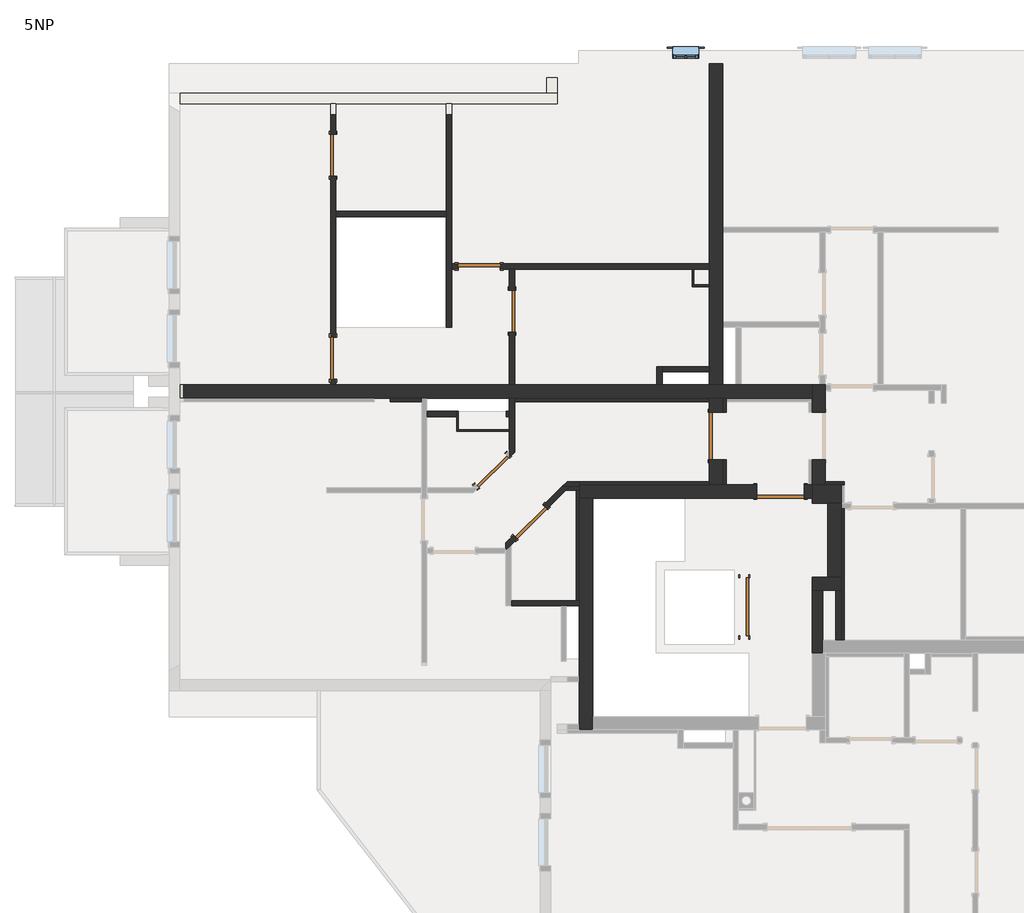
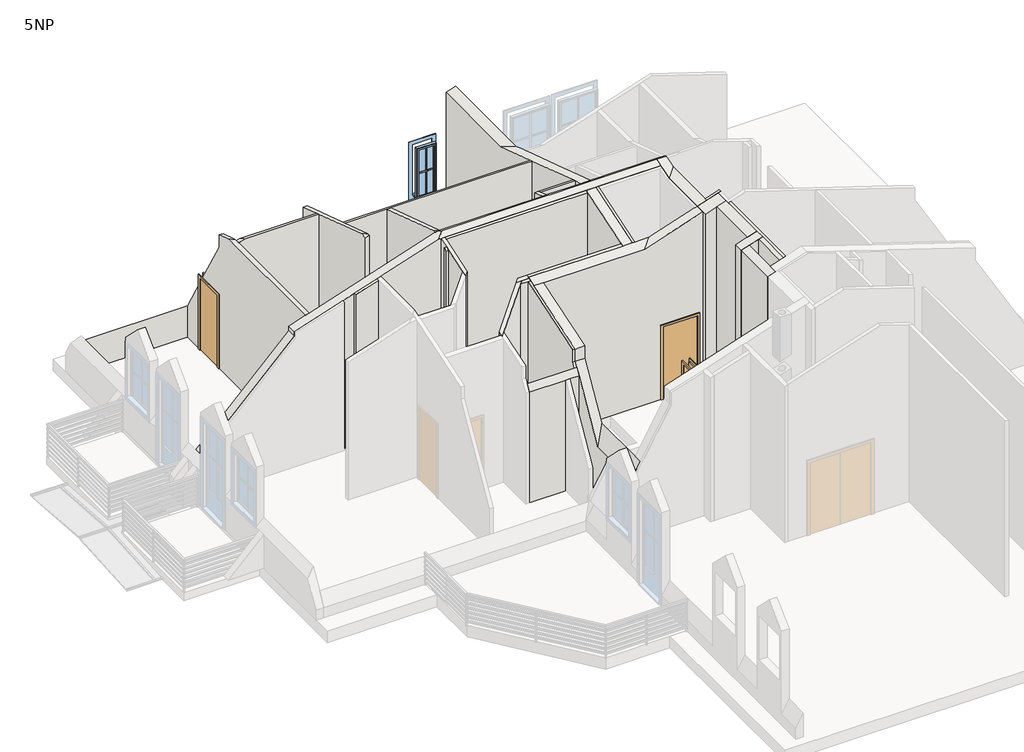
# One storey, part 3 of 4: 38 walls, 9 doors, 1 window.
"""IFC4 building model written with IfcOpenShell, lengths in millimetres."""

from ifc_helpers import new_model, si_unit, frame, origin, place, context, project, spatial, polyline, outline, extrude, faceted_brep, transform, mapped, element, save
from components import sd_1100x2000_1d62120a, sd_800x2000_6a16926d, sd_800x2000_80f4ff25, sd_900x2000_a6683946, sd_900x2000_4224ae2a, standard_window_with_mullions_cf772253

model = new_model("IFC4")

# Units and contexts
model_context = context("Model", 3, world=origin())
ifc_project = project(units=[si_unit("LENGTHUNIT", "METRE", prefix="MILLI")], contexts=[model_context])

# Site, building, storey
site = spatial("IfcSite", under=ifc_project)
building = spatial("IfcBuilding", under=site)
storey = spatial("IfcBuildingStorey", under=building, Name="5NP", Elevation=11800.0)

# Doors
placement = place(None, origin())
sd_1100x2000_shape = sd_1100x2000_1d62120a(model_context)
element("IfcDoor", 1, ObjectType="JednokridlePlne : SD 1100x2000", at=placement, inside=storey, context=model_context, shape_type="MappedRepresentation", body=[
    mapped(sd_1100x2000_shape, transform((277.8037835, 250.1290541, 11800.0), x_axis=(0.0, -1.0, 0.0), y_axis=(1.0, 0.0, 0.0), z_axis=(0.0, 0.0, 1.0))),
])
sd_800x2000_shape = sd_800x2000_6a16926d(model_context)
element("IfcDoor", 2, ObjectType="JednokridlePlne : SD 800x2000", at=placement, inside=storey, context=model_context, shape_type="MappedRepresentation", body=[
    mapped(sd_800x2000_shape, transform((-4517.2943935, 2840.0499619, 11800.0), x_axis=(0.712655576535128, 0.7015140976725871, 0.0), y_axis=(-0.7015140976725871, 0.712655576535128, 0.0), z_axis=(0.0, 0.0, 1.0))),
])
element("IfcDoor", 3, ObjectType="JednokridlePlne : SD 800x2000", at=placement, inside=storey, context=model_context, shape_type="MappedRepresentation", body=[
    mapped(sd_800x2000_shape, transform((-4137.1962165, 5871.7254016, 11800.0), x_axis=(0.0, 0.9999999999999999, 0.0), y_axis=(-0.9999999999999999, 0.0, 0.0), z_axis=(0.0, 0.0, 1.0))),
])
element("IfcDoor", 4, ObjectType="JednokridlePlne : SD 800x2000", at=placement, inside=storey, context=model_context, shape_type="MappedRepresentation", body=[
    mapped(sd_800x2000_shape, transform((-7537.1962165, 8831.4295669, 11800.0), x_axis=(0.0, -1.0, 0.0), y_axis=(1.0, 0.0, 0.0), z_axis=(0.0, 0.0, 1.0))),
])
sd_800x2000_2_shape = sd_800x2000_80f4ff25(model_context)
element("IfcDoor", 5, ObjectType="JednokridlePlne : SD 800x2000", at=placement, inside=storey, context=model_context, shape_type="MappedRepresentation", body=[
    mapped(sd_800x2000_2_shape, transform((-3790.7010875, 1863.413505, 11800.0), x_axis=(-0.7071067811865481, -0.7071067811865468, 0.0), y_axis=(0.7071067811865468, -0.7071067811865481, 0.0), z_axis=(0.0, 0.0, 1.0))),
])
element("IfcDoor", 6, ObjectType="JednokridlePlne : SD 800x2000", at=placement, inside=storey, context=model_context, shape_type="MappedRepresentation", body=[
    mapped(sd_800x2000_2_shape, transform((-7537.1962165, 4978.4889536, 11800.0), x_axis=(0.0, 1.0, 0.0), y_axis=(-1.0, 0.0, 0.0), z_axis=(0.0, 0.0, 1.0))),
])
element("IfcDoor", 7, ObjectType="JednokridlePlne : SD 800x2000", at=placement, inside=storey, context=model_context, shape_type="MappedRepresentation", body=[
    mapped(sd_800x2000_2_shape, transform((-4763.3256924, 6717.6290541, 11800.0), x_axis=(1.0, 0.0, 0.0), y_axis=(0.0, 1.0, 0.0), z_axis=(0.0, 0.0, 1.0))),
])
sd_900x2000_shape = sd_900x2000_a6683946(model_context)
element("IfcDoor", 8, ObjectType="JednokridlePlne : SD 900x2000", at=placement, inside=storey, context=model_context, shape_type="MappedRepresentation", body=[
    mapped(sd_900x2000_shape, transform((-262.1962165, 3497.5977832, 11800.0), x_axis=(0.0, -1.0, 0.0), y_axis=(1.0, 0.0, 0.0), z_axis=(0.0, 0.0, 1.0))),
])
sd_900x2000_2_shape = sd_900x2000_4224ae2a(model_context)
element("IfcDoor", 9, ObjectType="JednokridlePlne : SD 900x2000", at=placement, inside=storey, context=model_context, shape_type="MappedRepresentation", body=[
    mapped(sd_900x2000_2_shape, transform((965.3697901, 2442.6290541, 11800.0), x_axis=(-1.0, 0.0, 0.0), y_axis=(0.0, -1.0, 0.0), z_axis=(0.0, 0.0, 1.0))),
])

# Walls
element("IfcWall", 10, ObjectType="Exterior - 150+50mm", at=placement, inside=storey, context=model_context, shape_type="Brep", body=[
    faceted_brep([(-10456.4352243, 9807.6290541, 11800.0), (-7587.1962165, 9807.6290541, 11800.0), (-7487.1962165, 9807.6290541, 11800.0), (-5387.1962165, 9807.6290541, 11800.0), (-5287.1962165, 9807.6290541, 11800.0), (-3277.1962165, 9807.6290541, 11800.0), (-3277.1962165, 9807.6290541, 12667.9110615), (-5287.1962165, 9807.6290541, 12667.9110615), (-5387.1962165, 9807.6290541, 12667.9110615), (-7487.1962165, 9807.6290541, 12667.9110615), (-7587.1962165, 9807.6290541, 12667.9110615), (-10456.4352243, 9807.6290541, 12667.9110615), (-10456.4352243, 10007.6290541, 11800.0), (-10456.4352243, 10007.6290541, 12321.5009), (-3477.1962165, 10007.6290541, 12321.5009), (-3277.1962165, 10007.6290541, 12321.5009), (-3277.1962165, 10007.6290541, 11800.0), (-3477.1962165, 10007.6290541, 11800.0)], [[[0, 1, 2, 3, 4, 5, 6, 7, 8, 9, 10, 11]], [[12, 13, 14, 15, 16, 17]], [[5, 4, 3, 2, 1, 0, 12, 17, 16]], [[6, 5, 16, 15]], [[0, 11, 13, 12]], [[11, 10, 9, 8, 7, 6, 15, 14, 13]]]),
])
element("IfcWall", 11, ObjectType="Exterior - 150+50mm", at=placement, inside=storey, context=model_context, shape_type="SweptSolid", body=[
    extrude(outline(polyline([(10007.6290541, 11800.0), (10007.6290541, 12321.5009), (10308.7177391, 11800.0), (10007.6290541, 11800.0)])), frame((-3477.1962165, 0.0, 0.0), z_axis=(1.0, 0.0, 0.0), x_axis=(0.0, 1.0, 0.0)), (0.0, 0.0, 1.0), 200.0),
])
element("IfcWall", 12, ObjectType="Interior - 100mm", at=placement, inside=storey, context=model_context, shape_type="Brep", body=[
    faceted_brep([(-4187.1962165, 4217.6290541, 11800.0), (-4187.1962165, 3967.6290541, 11800.0), (-4187.1962165, 3867.6290541, 11800.0), (-4187.1962165, 3617.6290541, 11800.0), (-4187.1962165, 3587.6290541, 11800.0), (-4187.1962165, 3235.1475855, 11800.0), (-4187.1962165, 3094.8273477, 11800.0), (-4187.1962165, 3094.8273477, 16359.5045059), (-4187.1962165, 3235.1475855, 16405.097315), (-4187.1962165, 3867.6290541, 16610.6030016), (-4187.1962165, 3967.6290541, 16643.0949712), (-4187.1962165, 4217.6290541, 16724.3248953), (-4087.1962165, 4217.6290541, 11800.0), (-4087.1962165, 4217.6290541, 16724.3248953), (-4087.1962165, 4152.6290541, 16703.205115), (-4087.1962165, 3193.2639727, 16391.4885042), (-4087.1962165, 3193.2639727, 11800.0), (-4087.1962165, 4152.6290541, 11800.0)], [[[0, 1, 2, 3, 4, 5, 6, 7, 8, 9, 10, 11]], [[12, 13, 14, 15, 16, 17]], [[6, 5, 4, 3, 2, 1, 0, 12, 17, 16]], [[7, 6, 16, 15]], [[0, 11, 13, 12]], [[11, 10, 9, 8, 7, 15, 14, 13]]]),
])
element("IfcWall", 13, ObjectType="Interior - 100mm", at=placement, inside=storey, context=model_context, shape_type="Brep", body=[
    faceted_brep([(-2857.1962165, 2632.6290541, 11800.0), (-3092.1962165, 2632.6290541, 11800.0), (-3092.1962165, 2632.6290541, 16209.3271768), (-2857.1962165, 2632.6290541, 16209.3271768), (-2857.1962165, 2532.6290541, 11800.0), (-2857.1962165, 2532.6290541, 16176.8352071), (-3050.7748603, 2532.6290541, 16176.8352071), (-3192.1962165, 2532.6290541, 16176.8352071), (-3192.1962165, 2532.6290541, 11800.0), (-3050.7748603, 2532.6290541, 11800.0)], [[[0, 1, 2, 3]], [[4, 5, 6, 7, 8, 9]], [[1, 0, 4, 9, 8]], [[2, 1, 8, 7]], [[0, 3, 5, 4]], [[3, 2, 7, 6, 5]]]),
])
element("IfcWall", 14, ObjectType="Interior - 100mm", at=placement, inside=storey, context=model_context, shape_type="Brep", body=[
    faceted_brep([(-4108.899139, 1615.9261316, 13800.0), (-4108.899139, 1615.9261316, 11800.0), (-4257.1962165, 1467.6290541, 11800.0), (-4257.1962165, 1467.6290541, 15830.7957306), (-3192.1962165, 2532.6290541, 16176.8352071), (-3192.1962165, 2532.6290541, 11800.0), (-3543.2137141, 2181.6115566, 11800.0), (-3543.2137141, 2181.6115566, 13800.0), (-4257.1962165, 1326.2076978, 11800.0), (-4157.1962165, 1426.2076978, 11800.0), (-4038.1884609, 1545.2154535, 11800.0), (-4038.1884609, 1545.2154535, 13800.0), (-3472.5030359, 2110.9008784, 13800.0), (-3472.5030359, 2110.9008784, 11800.0), (-3115.7748603, 2467.6290541, 11800.0), (-3050.7748603, 2532.6290541, 11800.0), (-3050.7748603, 2532.6290541, 16176.8352071), (-3115.7748603, 2467.6290541, 16155.7154269), (-4157.1962165, 1426.2076978, 15817.3371162), (-4257.1962165, 1326.2076978, 15784.8451465)], [[[0, 1, 2, 3, 4, 5, 6, 7]], [[8, 9, 10, 11, 12, 13, 14, 15, 16, 17, 18, 19]], [[2, 1, 10, 9, 8]], [[6, 5, 15, 14, 13]], [[3, 2, 8, 19]], [[5, 4, 16, 15]], [[4, 3, 19, 18, 17, 16]], [[11, 10, 1, 0]], [[12, 11, 0, 7]], [[13, 12, 7, 6]]]),
])
element("IfcWall", 15, ObjectType="Interior - 100mm", at=placement, inside=storey, context=model_context, shape_type="Brep", body=[
    faceted_brep([(-4157.1962165, 267.6290541, 11800.0), (-3207.1962165, 267.6290541, 11800.0), (-3107.1962165, 267.6290541, 11800.0), (-2857.1962165, 267.6290541, 11800.0), (-2857.1962165, 267.6290541, 14861.0362405), (-3107.1962165, 267.6290541, 14861.0362405), (-3207.1962165, 267.6290541, 14861.0362405), (-4157.1962165, 267.6290541, 14861.0362405), (-4157.1962165, 367.6290541, 11800.0), (-4157.1962165, 367.6290541, 15034.2413213), (-2922.1962165, 367.6290541, 15034.2413213), (-2857.1962165, 367.6290541, 15034.2413213), (-2857.1962165, 367.6290541, 11800.0), (-2922.1962165, 367.6290541, 11800.0)], [[[0, 1, 2, 3, 4, 5, 6, 7]], [[8, 9, 10, 11, 12, 13]], [[3, 2, 1, 0, 8, 13, 12]], [[0, 7, 9, 8]], [[4, 3, 12, 11]], [[7, 6, 5, 4, 11, 10, 9]]]),
])
element("IfcWall", 16, ObjectType="Interior - 100mm", at=placement, inside=storey, context=model_context, shape_type="SweptSolid", body=[
    extrude(outline(polyline([(3967.6290541, 16643.0949712), (3967.6290541, 11800.0), (3867.6290541, 11800.0), (3867.6290541, 16610.6030016), (3967.6290541, 16643.0949712)])), frame((-4252.0439618, 0.0, 0.0), z_axis=(1.0, 0.0, 0.0), x_axis=(0.0, 1.0, 0.0)), (0.0, 0.0, 1.0), 64.8477452),
])
element("IfcWall", 17, ObjectType="Interior - 100mm", at=placement, inside=storey, context=model_context, shape_type="Brep", body=[
    faceted_brep([(-7587.1962165, 9807.6290541, 12667.9110615), (-7587.1962165, 9807.6290541, 11800.0), (-7587.1962165, 9231.4295669, 11800.0), (-7587.1962165, 9231.4295669, 13665.9178486), (-7487.1962165, 9807.6290541, 11800.0), (-7487.1962165, 9807.6290541, 12667.9110615), (-7487.1962165, 9231.4295669, 13665.9178486), (-7487.1962165, 9231.4295669, 11800.0)], [[[0, 1, 2, 3]], [[4, 5, 6, 7]], [[1, 4, 7, 2]], [[1, 0, 5, 4]], [[5, 0, 3, 6]], [[3, 2, 7, 6]]]),
    faceted_brep([(-7587.1962165, 4467.6290541, 11800.0), (-7587.1962165, 4467.6290541, 15637.1643294), (-7587.1962165, 7937.3638174, 15637.1643294), (-7587.1962165, 8372.0175181, 15495.936781), (-7587.1962165, 8372.0175181, 15154.4631818), (-7587.1962165, 9154.0172007, 13800.0), (-7587.1962165, 8431.4295669, 13800.0), (-7587.1962165, 8431.4295669, 11800.0), (-7587.1962165, 5378.4889536, 11800.0), (-7587.1962165, 5378.4889536, 13800.0), (-7587.1962165, 4578.4889536, 13800.0), (-7587.1962165, 4578.4889536, 11800.0), (-7487.1962165, 4467.6290541, 15669.6562991), (-7487.1962165, 4467.6290541, 11800.0), (-7487.1962165, 4578.4889536, 11800.0), (-7487.1962165, 4578.4889536, 13800.0), (-7487.1962165, 5378.4889536, 13800.0), (-7487.1962165, 5378.4889536, 11800.0), (-7487.1962165, 7667.6290541, 11800.0), (-7487.1962165, 7767.6290541, 11800.0), (-7487.1962165, 8431.4295669, 11800.0), (-7487.1962165, 8431.4295669, 13800.0), (-7487.1962165, 9154.0172007, 13800.0), (-7487.1962165, 8372.0175181, 15154.4631818), (-7487.1962165, 8372.0175181, 15495.936781), (-7487.1962165, 7837.3638174, 15669.6562991), (-7487.1962165, 7767.6290541, 15669.6562991), (-7487.1962165, 7667.6290541, 15669.6562991)], [[[0, 1, 2, 3, 4, 5, 6, 7, 8, 9, 10, 11]], [[12, 13, 14, 15, 16, 17, 18, 19, 20, 21, 22, 23, 24, 25, 26, 27]], [[13, 0, 11, 14]], [[17, 8, 7, 20, 19, 18]], [[1, 0, 13, 12]], [[4, 3, 24, 23]], [[4, 23, 22, 5]], [[24, 3, 2, 25]], [[1, 12, 27, 26, 25, 2]], [[9, 8, 17, 16]], [[10, 9, 16, 15]], [[11, 10, 15, 14]], [[6, 21, 20, 7]], [[21, 6, 5, 22]]]),
])
element("IfcWall", 18, ObjectType="Interior - 100mm", at=placement, inside=storey, context=model_context, shape_type="Brep", body=[
    faceted_brep([(-7487.1962165, 7667.6290541, 11800.0), (-5387.1962165, 7667.6290541, 11800.0), (-5387.1962165, 7667.6290541, 15724.8064668), (-7317.4614532, 7667.6290541, 15724.8064668), (-7487.1962165, 7667.6290541, 15669.6562991), (-7487.1962165, 7767.6290541, 11800.0), (-7487.1962165, 7767.6290541, 15669.6562991), (-7417.4614532, 7767.6290541, 15692.3144972), (-5387.1962165, 7767.6290541, 15692.3144972), (-5387.1962165, 7767.6290541, 11800.0)], [[[0, 1, 2, 3, 4]], [[5, 6, 7, 8, 9]], [[1, 0, 5, 9]], [[0, 4, 6, 5]], [[2, 1, 9, 8]], [[4, 3, 7, 6]], [[3, 2, 8, 7]]]),
])
element("IfcWall", 19, ObjectType="Interior - 100mm", at=placement, inside=storey, context=model_context, shape_type="Brep", body=[
    faceted_brep([(-5287.1962165, 5567.6290541, 11800.0), (-5287.1962165, 6667.6290541, 11800.0), (-5287.1962165, 6767.6290541, 11800.0), (-5287.1962165, 9807.6290541, 11800.0), (-5287.1962165, 9807.6290541, 12667.9110615), (-5287.1962165, 8372.0175181, 15154.4631818), (-5287.1962165, 8372.0175181, 15495.936781), (-5287.1962165, 6767.6290541, 16017.2341934), (-5287.1962165, 6667.6290541, 16049.726163), (-5287.1962165, 5637.3638174, 16384.4796308), (-5287.1962165, 5567.6290541, 16384.4796308), (-5387.1962165, 5567.6290541, 11800.0), (-5387.1962165, 5567.6290541, 16351.9876611), (-5387.1962165, 5737.3638174, 16351.9876611), (-5387.1962165, 7667.6290541, 15724.8064668), (-5387.1962165, 7767.6290541, 15692.3144972), (-5387.1962165, 8372.0175181, 15495.936781), (-5387.1962165, 8372.0175181, 15154.4631818), (-5387.1962165, 9807.6290541, 12667.9110615), (-5387.1962165, 9807.6290541, 11800.0), (-5387.1962165, 7767.6290541, 11800.0), (-5387.1962165, 7667.6290541, 11800.0)], [[[0, 1, 2, 3, 4, 5, 6, 7, 8, 9, 10]], [[11, 12, 13, 14, 15, 16, 17, 18, 19, 20, 21]], [[3, 2, 1, 0, 11, 21, 20, 19]], [[0, 10, 12, 11]], [[4, 3, 19, 18]], [[5, 17, 16, 6]], [[5, 4, 18, 17]], [[10, 9, 13, 12]], [[9, 8, 7, 6, 16, 15, 14, 13]]]),
])
element("IfcWall", 20, ObjectType="Interior - 100mm", at=placement, inside=storey, context=model_context, shape_type="Brep", body=[
    faceted_brep([(-4363.3256924, 6667.6290541, 13800.0), (-4363.3256924, 6667.6290541, 11800.0), (-4187.1962165, 6667.6290541, 11800.0), (-4087.1962165, 6667.6290541, 11800.0), (-717.1962165, 6667.6290541, 11800.0), (-687.1962165, 6667.6290541, 11800.0), (-387.1962165, 6667.6290541, 11800.0), (-387.1962165, 6667.6290541, 16049.726163), (-687.1962165, 6667.6290541, 16049.726163), (-4087.1962165, 6667.6290541, 16049.726163), (-4187.1962165, 6667.6290541, 16049.726163), (-5287.1962165, 6667.6290541, 16049.726163), (-5287.1962165, 6667.6290541, 11800.0), (-5163.3256924, 6667.6290541, 11800.0), (-5163.3256924, 6667.6290541, 13800.0), (-387.1962165, 6767.6290541, 11800.0), (-4363.3256924, 6767.6290541, 11800.0), (-4363.3256924, 6767.6290541, 13800.0), (-5163.3256924, 6767.6290541, 13800.0), (-5163.3256924, 6767.6290541, 11800.0), (-5287.1962165, 6767.6290541, 11800.0), (-5287.1962165, 6767.6290541, 16017.2341934), (-387.1962165, 6767.6290541, 16017.2341934)], [[[0, 1, 2, 3, 4, 5, 6, 7, 8, 9, 10, 11, 12, 13, 14]], [[15, 16, 17, 18, 19, 20, 21, 22]], [[6, 5, 4, 3, 2, 1, 16, 15]], [[13, 12, 20, 19]], [[12, 11, 21, 20]], [[7, 6, 15, 22]], [[11, 10, 9, 8, 7, 22, 21]], [[17, 16, 1, 0]], [[18, 17, 0, 14]], [[19, 18, 14, 13]]]),
])
element("IfcWall", 21, ObjectType="Interior - 100mm", at=placement, inside=storey, context=model_context, shape_type="Brep", body=[
    faceted_brep([(-4087.1962165, 6271.7254016, 13800.0), (-4087.1962165, 6271.7254016, 11800.0), (-4087.1962165, 6667.6290541, 11800.0), (-4087.1962165, 6667.6290541, 16049.726163), (-4087.1962165, 4467.6290541, 16764.5494947), (-4087.1962165, 4467.6290541, 11800.0), (-4087.1962165, 5471.7254016, 11800.0), (-4087.1962165, 5471.7254016, 13800.0), (-4187.1962165, 6667.6290541, 11800.0), (-4187.1962165, 6271.7254016, 11800.0), (-4187.1962165, 6271.7254016, 13800.0), (-4187.1962165, 5471.7254016, 13800.0), (-4187.1962165, 5471.7254016, 11800.0), (-4187.1962165, 4467.6290541, 11800.0), (-4187.1962165, 4467.6290541, 16741.8912966), (-4187.1962165, 4537.3638174, 16741.8912966), (-4187.1962165, 6667.6290541, 16049.726163), (-4117.4614532, 4467.6290541, 16764.5494947)], [[[0, 1, 2, 3, 4, 5, 6, 7]], [[8, 9, 10, 11, 12, 13, 14, 15, 16]], [[2, 1, 9, 8]], [[6, 5, 13, 12]], [[5, 4, 17, 14, 13]], [[3, 2, 8, 16]], [[4, 3, 16, 15, 17]], [[15, 14, 17]], [[10, 9, 1, 0]], [[11, 10, 0, 7]], [[12, 11, 7, 6]]]),
])
element("IfcWall", 22, ObjectType="Interior - 100mm", at=placement, inside=storey, context=model_context, shape_type="Brep", body=[
    faceted_brep([(-1287.1962165, 4467.6290541, 11800.0), (-1287.1962165, 4717.6290541, 11800.0), (-1287.1962165, 4817.6290541, 11800.0), (-1287.1962165, 4817.6290541, 16650.8276011), (-1287.1962165, 4717.6290541, 16683.3195707), (-1287.1962165, 4467.6290541, 16764.5494947), (-1387.1962165, 4467.6290541, 11800.0), (-1387.1962165, 4467.6290541, 16764.5494947), (-1387.1962165, 4817.6290541, 16650.8276011), (-1387.1962165, 4817.6290541, 11800.0)], [[[0, 1, 2, 3, 4, 5]], [[6, 7, 8, 9]], [[2, 1, 0, 6, 9]], [[3, 2, 9, 8]], [[0, 5, 7, 6]], [[5, 4, 3, 8, 7]]]),
])
element("IfcWall", 23, ObjectType="Interior - 100mm", at=placement, inside=storey, context=model_context, shape_type="SweptSolid", body=[
    extrude(outline(polyline([(4717.6290541, 11800.0), (4717.6290541, 16683.3195707), (4817.6290541, 16650.8276011), (4817.6290541, 11800.0), (4717.6290541, 11800.0)])), frame((-1287.1962165, 0.0, 0.0), z_axis=(1.0, 0.0, 0.0), x_axis=(0.0, 1.0, 0.0)), (0.0, 0.0, 1.0), 900.0),
])
element("IfcWall", 24, ObjectType="Interior - 100mm", at=placement, inside=storey, context=model_context, shape_type="SweptSolid", body=[
    extrude(outline(polyline([(16748.3035099, 2012.8037835), (11800.0, 2012.8037835), (11800.0, 2112.8037835), (16780.7954795, 2112.8037835), (16748.3035099, 2012.8037835)])), frame((0.0, -382.3709459, 0.0), z_axis=(0.0, 1.0, 0.0), x_axis=(0.0, 0.0, 1.0)), (0.0, 0.0, 1.0), 950.0),
])
element("IfcWall", 25, ObjectType="Interior - 100mm", at=placement, inside=storey, context=model_context, shape_type="SweptSolid", body=[
    extrude(outline(polyline([(-5187.1962165, 3867.6290541), (-5757.1962165, 3867.6290541), (-5757.1962165, 3967.6290541), (-5187.1962165, 3967.6290541), (-5187.1962165, 3867.6290541)])), frame((0.0, 0.0, 11800.0), z_axis=(0.0, 0.0, 1.0), x_axis=(1.0, 0.0, 0.0)), (0.0, 0.0, 1.0), 2950.0),
])
element("IfcWall", 26, ObjectType="Interior - 200mm", at=placement, inside=storey, context=model_context, shape_type="Brep", body=[
    faceted_brep([(1762.8059596, -632.3709459, 11800.0), (1762.8055844, -382.3709459, 11800.0), (1762.8041587, 567.6290541, 11800.0), (1762.8041587, 567.6290541, 16667.0737078), (1762.8055844, -382.3709459, 16667.074171), (1762.8059596, -632.3709459, 16667.0742929), (1562.8059596, -632.3709459, 11800.0), (1562.8059596, -632.3709459, 16602.0903537), (1562.8041587, 567.6290541, 16602.0897685), (1562.8041587, 567.6290541, 11800.0)], [[[0, 1, 2, 3, 4, 5]], [[6, 7, 8, 9]], [[2, 1, 0, 6, 9]], [[0, 5, 7, 6]], [[3, 2, 9, 8]], [[5, 4, 3, 8, 7]]]),
])
element("IfcWall", 27, ObjectType="Interior - 250mm", at=placement, inside=storey, context=model_context, shape_type="Brep", body=[
    faceted_brep([(-2857.1962165, 2317.6290541, 11800.0), (-2607.1962165, 2317.6290541, 11800.0), (515.3697901, 2317.6290541, 11800.0), (515.3697901, 2317.6290541, 13800.0), (1415.3697901, 2317.6290541, 13800.0), (1415.3697901, 2317.6290541, 11800.0), (1562.8037835, 2317.6290541, 11800.0), (1562.8037835, 2317.6290541, 16602.0896466), (39.0051959, 2317.6290541, 16106.9774724), (-2607.1962165, 2317.6290541, 16106.9774724), (-2857.1962165, 2317.6290541, 16106.9774724), (515.3697901, 2567.6290541, 13800.0), (515.3697901, 2567.6290541, 11800.0), (-72.1962165, 2567.6290541, 11800.0), (-137.1962165, 2567.6290541, 11800.0), (-387.1962165, 2567.6290541, 11800.0), (-2857.1962165, 2567.6290541, 11800.0), (-2857.1962165, 2567.6290541, 16188.2073965), (-387.1962165, 2567.6290541, 16188.2073965), (-137.1962165, 2567.6290541, 16188.2073965), (-72.1962165, 2567.6290541, 16188.2073965), (289.0051959, 2567.6290541, 16188.2073965), (1497.8037835, 2567.6290541, 16580.9698664), (1562.8037835, 2567.6290541, 16602.0896466), (1562.8037835, 2567.6290541, 11800.0), (1497.8037835, 2567.6290541, 11800.0), (1415.3697901, 2567.6290541, 11800.0), (1415.3697901, 2567.6290541, 13800.0)], [[[0, 1, 2, 3, 4, 5, 6, 7, 8, 9, 10]], [[11, 12, 13, 14, 15, 16, 17, 18, 19, 20, 21, 22, 23, 24, 25, 26, 27]], [[16, 15, 14, 13, 12, 2, 1, 0]], [[26, 25, 24, 6, 5]], [[0, 10, 17, 16]], [[7, 6, 24, 23]], [[10, 9, 8, 21, 20, 19, 18, 17]], [[8, 7, 23, 22, 21]], [[3, 2, 12, 11]], [[4, 3, 11, 27]], [[5, 4, 27, 26]]]),
])
element("IfcWall", 28, ObjectType="Interior - 250mm", at=placement, inside=storey, context=model_context, shape_type="Brep", body=[
    faceted_brep([(-2857.1962165, 2317.6290541, 11800.0), (-2857.1962165, 367.6290541, 11800.0), (-2857.1962165, 267.6290541, 11800.0), (-2857.1962165, -732.3709459, 11800.0), (-2857.1962165, -1072.3709459, 11800.0), (-2857.1962165, -1172.3709459, 11800.0), (-2857.1962165, -1982.3709459, 11800.0), (-2857.1962165, -2082.3709459, 11800.0), (-2857.1962165, -2082.3709459, 13395.3724007), (-2857.1962165, -1982.3709459, 13395.3724007), (-2857.1962165, -1172.3709459, 13395.3724007), (-2857.1962165, -1072.3709459, 13395.3724007), (-2857.1962165, -578.5723584, 13395.3724007), (-2857.1962165, 267.6290541, 14861.0362405), (-2857.1962165, 367.6290541, 15034.2413213), (-2857.1962165, 437.0391776, 15154.4631818), (-2857.1962165, 437.0391776, 15495.936781), (-2857.1962165, 2317.6290541, 16106.9774724), (-2607.1962165, 2317.6290541, 11800.0), (-2607.1962165, 2317.6290541, 16106.9774724), (-2607.1962165, 437.0391776, 15495.936781), (-2607.1962165, 437.0391776, 15154.4631818), (-2607.1962165, -328.5723584, 13828.3851026), (-2607.1962165, -1832.3709459, 13828.3851026), (-2607.1962165, -2082.3709459, 13828.3851026), (-2607.1962165, -2082.3709459, 11800.0), (-2607.1962165, -1832.3709459, 11800.0)], [[[0, 1, 2, 3, 4, 5, 6, 7, 8, 9, 10, 11, 12, 13, 14, 15, 16, 17]], [[18, 19, 20, 21, 22, 23, 24, 25, 26]], [[7, 6, 5, 4, 3, 2, 1, 0, 18, 26, 25]], [[8, 7, 25, 24]], [[0, 17, 19, 18]], [[15, 21, 20, 16]], [[15, 14, 13, 12, 22, 21]], [[12, 11, 10, 9, 8, 24, 23, 22]], [[17, 16, 20, 19]]]),
])
element("IfcWall", 29, ObjectType="Interior - 250mm", at=placement, inside=storey, context=model_context, shape_type="Brep", body=[
    faceted_brep([(1562.8041587, 567.6290541, 11800.0), (1762.8041587, 567.6290541, 11800.0), (2012.8037835, 567.6290541, 11800.0), (2112.8037835, 567.6290541, 11800.0), (2112.8037835, 567.6290541, 16780.7954795), (2012.8037835, 567.6290541, 16748.3035099), (1762.8041587, 567.6290541, 16667.0737078), (1562.8041587, 567.6290541, 16602.0897685), (1562.8037835, 817.6290541, 11800.0), (1562.8037835, 817.6290541, 16602.0896466), (1862.8037835, 817.6290541, 16699.5655555), (2112.8037835, 817.6290541, 16780.7954795), (2112.8037835, 817.6290541, 11800.0), (1862.8037835, 817.6290541, 11800.0)], [[[0, 1, 2, 3, 4, 5, 6, 7]], [[8, 9, 10, 11, 12, 13]], [[3, 2, 1, 0, 8, 13, 12]], [[0, 7, 9, 8]], [[4, 3, 12, 11]], [[7, 6, 5, 4, 11, 10, 9]]]),
])
element("IfcWall", 30, ObjectType="Interior - 250mm", at=placement, inside=storey, context=model_context, shape_type="Brep", body=[
    faceted_brep([(2112.8037835, 817.6290541, 11800.0), (2112.8037835, 2116.2076978, 11800.0), (2112.8037835, 2216.2076978, 11800.0), (2112.8037835, 2217.6290541, 11800.0), (2112.8037835, 2217.6290541, 16780.7954795), (2112.8037835, 2216.2076978, 16780.7954795), (2112.8037835, 2116.2076978, 16780.7954795), (2112.8037835, 817.6290541, 16780.7954795), (1862.8037835, 817.6290541, 11800.0), (1862.8037835, 817.6290541, 16699.5655555), (1862.8037835, 2217.6290541, 16699.5655555), (1862.8037835, 2217.6290541, 11800.0)], [[[0, 1, 2, 3, 4, 5, 6, 7]], [[8, 9, 10, 11]], [[3, 2, 1, 0, 8, 11]], [[0, 7, 9, 8]], [[4, 3, 11, 10]], [[7, 6, 5, 4, 10, 9]]]),
])
element("IfcWall", 31, ObjectType="Interior - 250mm", at=placement, inside=storey, context=model_context, shape_type="Brep", body=[
    faceted_brep([(1812.8037835, 2567.6290541, 11800.0), (1812.8037835, 2632.6290541, 11800.0), (1812.8037835, 3047.5977832, 11800.0), (1812.8037835, 3047.5977832, 13800.0), (1812.8037835, 3947.5977832, 13800.0), (1812.8037835, 3947.5977832, 11800.0), (1812.8037835, 4367.6290541, 11800.0), (1812.8037835, 4467.6290541, 11800.0), (1812.8037835, 4467.6290541, 16764.5494947), (1812.8037835, 4404.5283479, 16785.052157), (1812.8037835, 4367.6290541, 16773.0628497), (1812.8037835, 4091.4276416, 16683.3195707), (1812.8037835, 2632.6290541, 16683.3195707), (1812.8037835, 2567.6290541, 16683.3195707), (1562.8037835, 3047.5977832, 13800.0), (1562.8037835, 3047.5977832, 11800.0), (1562.8037835, 2567.6290541, 11800.0), (1562.8037835, 2567.6290541, 16602.0896466), (1562.8037835, 3841.4276416, 16602.0896466), (1562.8037835, 4152.6290541, 16703.205115), (1562.8037835, 4217.6290541, 16724.3248953), (1562.8037835, 4404.5283479, 16785.052157), (1562.8037835, 4467.6290541, 16764.5494947), (1562.8037835, 4467.6290541, 11800.0), (1562.8037835, 4217.6290541, 11800.0), (1562.8037835, 4152.6290541, 11800.0), (1562.8037835, 3947.5977832, 11800.0), (1562.8037835, 3947.5977832, 13800.0), (1712.8037835, 4467.6290541, 11800.0), (1712.8037835, 4467.6290541, 16764.5494947)], [[[0, 1, 2, 3, 4, 5, 6, 7, 8, 9, 10, 11, 12, 13]], [[14, 15, 16, 17, 18, 19, 20, 21, 22, 23, 24, 25, 26, 27]], [[16, 15, 2, 1, 0]], [[26, 25, 24, 23, 28, 7, 6, 5]], [[8, 7, 28, 23, 22, 29]], [[0, 13, 17, 16]], [[13, 12, 11, 18, 17]], [[11, 10, 9, 21, 20, 19, 18]], [[9, 8, 29, 22, 21]], [[3, 2, 15, 14]], [[4, 3, 14, 27]], [[5, 4, 27, 26]]]),
])
element("IfcWall", 32, ObjectType="Interior - 250mm", at=placement, inside=storey, context=model_context, shape_type="Brep", body=[
    faceted_brep([(1562.8037835, 4467.6290541, 11800.0), (212.8037835, 4467.6290541, 11800.0), (112.8037835, 4467.6290541, 11800.0), (-137.1962165, 4467.6290541, 11800.0), (-387.1962165, 4467.6290541, 11800.0), (-1287.1962165, 4467.6290541, 11800.0), (-1387.1962165, 4467.6290541, 11800.0), (-4087.1962165, 4467.6290541, 11800.0), (-4187.1962165, 4467.6290541, 11800.0), (-7487.1962165, 4467.6290541, 11800.0), (-7587.1962165, 4467.6290541, 11800.0), (-10456.4352243, 4467.6290541, 11800.0), (-10456.4352243, 4467.6290541, 12930.7609923), (-8021.8499172, 4467.6290541, 15365.3462993), (-8021.8499172, 4467.6290541, 15495.936781), (-7587.1962165, 4467.6290541, 15637.1643294), (-7487.1962165, 4467.6290541, 15669.6562991), (-4187.1962165, 4467.6290541, 16741.8912966), (-4117.4614532, 4467.6290541, 16764.5494947), (-4087.1962165, 4467.6290541, 16764.5494947), (-1387.1962165, 4467.6290541, 16764.5494947), (-1287.1962165, 4467.6290541, 16764.5494947), (-387.1962165, 4467.6290541, 16764.5494947), (-137.1962165, 4467.6290541, 16764.5494947), (112.8037835, 4467.6290541, 16764.5494947), (212.8037835, 4467.6290541, 16764.5494947), (1562.8037835, 4467.6290541, 16764.5494947), (1562.8037835, 4217.6290541, 11800.0), (1562.8037835, 4217.6290541, 16724.3248953), (-72.1962165, 4217.6290541, 16724.3248953), (-137.1962165, 4217.6290541, 16724.3248953), (-387.1962165, 4217.6290541, 16724.3248953), (-4087.1962165, 4217.6290541, 16724.3248953), (-4187.1962165, 4217.6290541, 16724.3248953), (-4241.2600407, 4217.6290541, 16724.3248953), (-5757.1962165, 4217.6290541, 16231.7673735), (-5857.1962165, 4217.6290541, 16199.2754039), (-8021.8499172, 4217.6290541, 15495.936781), (-8021.8499172, 4217.6290541, 15365.3462993), (-10456.4352243, 4217.6290541, 12930.7609923), (-10456.4352243, 4217.6290541, 11800.0), (-5857.1962165, 4217.6290541, 11800.0), (-5757.1962165, 4217.6290541, 11800.0), (-4187.1962165, 4217.6290541, 11800.0), (-4087.1962165, 4217.6290541, 11800.0), (-387.1962165, 4217.6290541, 11800.0), (-137.1962165, 4217.6290541, 11800.0), (-72.1962165, 4217.6290541, 11800.0), (1562.8037835, 4404.5283479, 16785.052157), (-4054.360747, 4404.5283479, 16785.052157)], [[[0, 1, 2, 3, 4, 5, 6, 7, 8, 9, 10, 11, 12, 13, 14, 15, 16, 17, 18, 19, 20, 21, 22, 23, 24, 25, 26]], [[27, 28, 29, 30, 31, 32, 33, 34, 35, 36, 37, 38, 39, 40, 41, 42, 43, 44, 45, 46, 47]], [[11, 10, 9, 8, 7, 6, 5, 4, 3, 2, 1, 0, 27, 47, 46, 45, 44, 43, 42, 41, 40]], [[12, 11, 40, 39]], [[0, 26, 48, 28, 27]], [[13, 38, 37, 14]], [[13, 12, 39, 38]], [[26, 25, 24, 23, 22, 21, 20, 19, 18, 49, 48]], [[18, 17, 16, 15, 14, 37, 36, 35, 34, 49]], [[34, 33, 32, 31, 30, 29, 28, 48, 49]]]),
])
element("IfcWall", 33, ObjectType="Interior - 250mm", at=placement, inside=storey, context=model_context, shape_type="Brep", body=[
    faceted_brep([(-387.1962165, 3047.5977832, 13800.0), (-387.1962165, 3047.5977832, 11800.0), (-387.1962165, 2632.6290541, 11800.0), (-387.1962165, 2567.6290541, 11800.0), (-387.1962165, 2567.6290541, 16188.2073965), (-387.1962165, 2632.6290541, 16209.3271768), (-387.1962165, 4152.6290541, 16703.205115), (-387.1962165, 4217.6290541, 16724.3248953), (-387.1962165, 4217.6290541, 11800.0), (-387.1962165, 4152.6290541, 11800.0), (-387.1962165, 3947.5977832, 11800.0), (-387.1962165, 3947.5977832, 13800.0), (-137.1962165, 2567.6290541, 11800.0), (-137.1962165, 3047.5977832, 11800.0), (-137.1962165, 3047.5977832, 13800.0), (-137.1962165, 3947.5977832, 13800.0), (-137.1962165, 3947.5977832, 11800.0), (-137.1962165, 4217.6290541, 11800.0), (-137.1962165, 4217.6290541, 16724.3248953), (-137.1962165, 2567.6290541, 16188.2073965)], [[[0, 1, 2, 3, 4, 5, 6, 7, 8, 9, 10, 11]], [[12, 13, 14, 15, 16, 17, 18, 19]], [[3, 2, 1, 13, 12]], [[10, 9, 8, 17, 16]], [[4, 3, 12, 19]], [[8, 7, 18, 17]], [[7, 6, 5, 4, 19, 18]], [[14, 13, 1, 0]], [[15, 14, 0, 11]], [[16, 15, 11, 10]]]),
])
element("IfcWall", 34, ObjectType="Interior - 250mm", at=placement, inside=storey, context=model_context, shape_type="Brep", body=[
    faceted_brep([(-387.1962165, 10567.6290541, 11800.0), (-387.1962165, 6767.6290541, 11800.0), (-387.1962165, 6667.6290541, 11800.0), (-387.1962165, 6367.6290541, 11800.0), (-387.1962165, 6337.6290541, 11800.0), (-387.1962165, 4817.6290541, 11800.0), (-387.1962165, 4717.6290541, 11800.0), (-387.1962165, 4467.6290541, 11800.0), (-387.1962165, 4467.6290541, 16764.5494947), (-387.1962165, 4717.6290541, 16683.3195707), (-387.1962165, 4817.6290541, 16650.8276011), (-387.1962165, 6367.6290541, 16147.2020719), (-387.1962165, 6667.6290541, 16049.726163), (-387.1962165, 6767.6290541, 16017.2341934), (-387.1962165, 8087.6290541, 15588.3401944), (-387.1962165, 10567.6290541, 15588.3401944), (-137.1962165, 10567.6290541, 11800.0), (-137.1962165, 10567.6290541, 15669.5701184), (-137.1962165, 7837.6290541, 15669.5701184), (-137.1962165, 7467.6290541, 15789.790406), (-137.1962165, 7367.6290541, 15822.2823757), (-137.1962165, 5667.6290541, 16374.6458593), (-137.1962165, 5567.6290541, 16407.1378289), (-137.1962165, 4467.6290541, 16764.5494947), (-137.1962165, 4467.6290541, 11800.0), (-137.1962165, 5567.6290541, 11800.0), (-137.1962165, 5667.6290541, 11800.0), (-137.1962165, 7367.6290541, 11800.0), (-137.1962165, 7467.6290541, 11800.0)], [[[0, 1, 2, 3, 4, 5, 6, 7, 8, 9, 10, 11, 12, 13, 14, 15]], [[16, 17, 18, 19, 20, 21, 22, 23, 24, 25, 26, 27, 28]], [[7, 6, 5, 4, 3, 2, 1, 0, 16, 28, 27, 26, 25, 24]], [[8, 7, 24, 23]], [[0, 15, 17, 16]], [[15, 14, 18, 17]], [[14, 13, 12, 11, 10, 9, 8, 23, 22, 21, 20, 19, 18]]]),
])
element("IfcWall", 35, ObjectType="Interior - 300mm", at=placement, inside=storey, context=model_context, shape_type="Brep", body=[
    faceted_brep([(-387.1962165, 6367.6290541, 11800.0), (-687.1962165, 6367.6290541, 11800.0), (-717.1962165, 6367.6290541, 11800.0), (-717.1962165, 6367.6290541, 14750.0), (-687.1962165, 6367.6290541, 14750.0), (-387.1962165, 6367.6290541, 14750.0), (-387.1962165, 6337.6290541, 11800.0), (-387.1962165, 6337.6290541, 14750.0), (-717.1962165, 6337.6290541, 14750.0), (-717.1962165, 6337.6290541, 11800.0)], [[[0, 1, 2, 3, 4, 5]], [[6, 7, 8, 9]], [[2, 1, 0, 6, 9]], [[5, 4, 3, 8, 7]], [[3, 2, 9, 8]], [[0, 5, 7, 6]]]),
])
element("IfcWall", 36, ObjectType="Interior - 300mm", at=placement, inside=storey, context=model_context, shape_type="SweptSolid", body=[
    extrude(outline(polyline([(-687.1962165, 6667.6290541), (-687.1962165, 6367.6290541), (-717.1962165, 6367.6290541), (-717.1962165, 6667.6290541), (-687.1962165, 6667.6290541)])), frame((0.0, 0.0, 11800.0), z_axis=(0.0, 0.0, 1.0), x_axis=(1.0, 0.0, 0.0)), (0.0, 0.0, 1.0), 2950.0),
])
element("IfcWall", 37, ObjectType="Interior - 300mm", at=placement, inside=storey, context=model_context, shape_type="Brep", body=[
    faceted_brep([(-5187.1962165, 3967.6290541, 11800.0), (-5187.1962165, 3867.6290541, 11800.0), (-5187.1962165, 3587.6290541, 11800.0), (-5187.1962165, 3587.6290541, 14750.0), (-5187.1962165, 3867.6290541, 14750.0), (-5187.1962165, 3967.6290541, 14750.0), (-5157.1962165, 3967.6290541, 11800.0), (-5157.1962165, 3967.6290541, 14750.0), (-5157.1962165, 3617.6290541, 14750.0), (-5157.1962165, 3587.6290541, 14750.0), (-5157.1962165, 3587.6290541, 11800.0), (-5157.1962165, 3617.6290541, 11800.0)], [[[0, 1, 2, 3, 4, 5]], [[6, 7, 8, 9, 10, 11]], [[2, 1, 0, 6, 11, 10]], [[5, 4, 3, 9, 8, 7]], [[3, 2, 10, 9]], [[0, 5, 7, 6]]]),
])
element("IfcWall", 38, ObjectType="Interior - 300mm", at=placement, inside=storey, context=model_context, shape_type="SweptSolid", body=[
    extrude(outline(polyline([(-4187.1962165, 3587.6290541), (-5157.1962165, 3587.6290541), (-5157.1962165, 3617.6290541), (-4187.1962165, 3617.6290541), (-4187.1962165, 3587.6290541)])), frame((0.0, 0.0, 11800.0), z_axis=(0.0, 0.0, 1.0), x_axis=(1.0, 0.0, 0.0)), (0.0, 0.0, 1.0), 2950.0),
])
element("IfcWall", 39, ObjectType="Interior - 350mm", at=placement, inside=storey, context=model_context, shape_type="Brep", body=[
    faceted_brep([(2112.8037835, 2567.6290541, 11800.0), (1812.8037835, 2567.6290541, 11800.0), (1562.8037835, 2567.6290541, 11800.0), (1562.8037835, 2567.6290541, 16602.0896466), (1812.8037835, 2567.6290541, 16683.3195707), (2112.8037835, 2567.6290541, 16780.7954795), (2112.8037835, 2217.6290541, 11800.0), (2112.8037835, 2217.6290541, 16780.7954795), (1862.8037835, 2217.6290541, 16699.5655555), (1562.8037835, 2217.6290541, 16602.0896466), (1562.8037835, 2217.6290541, 11800.0), (1862.8037835, 2217.6290541, 11800.0), (1562.8037835, 2317.6290541, 11800.0), (1562.8037835, 2317.6290541, 16602.0896466)], [[[0, 1, 2, 3, 4, 5]], [[6, 7, 8, 9, 10, 11]], [[2, 1, 0, 6, 11, 10, 12]], [[0, 5, 7, 6]], [[3, 2, 12, 10, 9, 13]], [[5, 4, 3, 13, 9, 8, 7]]]),
])
element("IfcWall", 40, ObjectType="Interior - 65mm", at=placement, inside=storey, context=model_context, shape_type="SweptSolid", body=[
    extrude(outline(polyline([(11800.0, -6457.1962165), (11800.0, -5857.1962165), (16199.2754039, -5857.1962165), (16004.3235862, -6457.1962165), (11800.0, -6457.1962165)])), frame((0.0, 4152.6290541, 0.0), z_axis=(0.0, 1.0, 0.0), x_axis=(0.0, 0.0, 1.0)), (0.0, 0.0, 1.0), 65.0),
])
element("IfcWall", 41, ObjectType="Interior - 65mm", at=placement, inside=storey, context=model_context, shape_type="SweptSolid", body=[
    extrude(outline(polyline([(2567.6290541, 11800.0), (2567.6290541, 16188.2073965), (2632.6290541, 16209.3271768), (2632.6290541, 11800.0), (2567.6290541, 11800.0)])), frame((-2857.1962165, 0.0, 0.0), z_axis=(1.0, 0.0, 0.0), x_axis=(0.0, 1.0, 0.0)), (0.0, 0.0, 1.0), 2470.0),
])
element("IfcWall", 42, ObjectType="Interior - 65mm", at=placement, inside=storey, context=model_context, shape_type="SweptSolid", body=[
    extrude(outline(polyline([(4152.6290541, 11800.0), (4152.6290541, 16703.205115), (4217.6290541, 16724.3248953), (4217.6290541, 11800.0), (4152.6290541, 11800.0)])), frame((-4087.1962165, 0.0, 0.0), z_axis=(1.0, 0.0, 0.0), x_axis=(0.0, 1.0, 0.0)), (0.0, 0.0, 1.0), 3700.0),
])
element("IfcWall", 43, ObjectType="Interior - 65mm", at=placement, inside=storey, context=model_context, shape_type="Brep", body=[
    faceted_brep([(-72.1962165, 2567.6290541, 11800.0), (-72.1962165, 3047.5977832, 11800.0), (-72.1962165, 3047.5977832, 13800.0), (-72.1962165, 3947.5977832, 13800.0), (-72.1962165, 3947.5977832, 11800.0), (-72.1962165, 4152.6290541, 11800.0), (-72.1962165, 4217.6290541, 11800.0), (-72.1962165, 4217.6290541, 16724.3248953), (-72.1962165, 4152.6290541, 16703.205115), (-72.1962165, 2567.6290541, 16188.2073965), (-137.1962165, 3047.5977832, 13800.0), (-137.1962165, 3047.5977832, 11800.0), (-137.1962165, 2567.6290541, 11800.0), (-137.1962165, 2567.6290541, 16188.2073965), (-137.1962165, 4217.6290541, 16724.3248953), (-137.1962165, 4217.6290541, 11800.0), (-137.1962165, 3947.5977832, 11800.0), (-137.1962165, 3947.5977832, 13800.0)], [[[0, 1, 2, 3, 4, 5, 6, 7, 8, 9]], [[10, 11, 12, 13, 14, 15, 16, 17]], [[12, 11, 1, 0]], [[16, 15, 6, 5, 4]], [[7, 6, 15, 14]], [[0, 9, 13, 12]], [[9, 8, 7, 14, 13]], [[2, 1, 11, 10]], [[3, 2, 10, 17]], [[4, 3, 17, 16]]]),
])
element("IfcWall", 44, ObjectType="Interior - 65mm", at=placement, inside=storey, context=model_context, shape_type="Brep", body=[
    faceted_brep([(1812.8037835, 2567.6290541, 11800.0), (2112.8037835, 2567.6290541, 11800.0), (2177.8037835, 2567.6290541, 11800.0), (2177.8037835, 2567.6290541, 16801.9152598), (2112.8037835, 2567.6290541, 16780.7954795), (1812.8037835, 2567.6290541, 16683.3195707), (1812.8037835, 2632.6290541, 11800.0), (1812.8037835, 2632.6290541, 16683.3195707), (2177.8037835, 2632.6290541, 16801.9152598), (2177.8037835, 2632.6290541, 11800.0)], [[[0, 1, 2, 3, 4, 5]], [[6, 7, 8, 9]], [[2, 1, 0, 6, 9]], [[3, 2, 9, 8]], [[0, 5, 7, 6]], [[5, 4, 3, 8, 7]]]),
])
element("IfcWall", 45, ObjectType="Interior - 65mm", at=placement, inside=storey, context=model_context, shape_type="SweptSolid", body=[
    extrude(outline(polyline([(16780.7954795, 2112.8037835), (11800.0, 2112.8037835), (11800.0, 2177.8037835), (16801.9152598, 2177.8037835), (16780.7954795, 2112.8037835)])), frame((0.0, -382.3709459, 0.0), z_axis=(0.0, 1.0, 0.0), x_axis=(0.0, 0.0, 1.0)), (0.0, 0.0, 1.0), 2498.5786438),
])
element("IfcWall", 46, ObjectType="Interior - 65mm", at=placement, inside=storey, context=model_context, shape_type="Brep", body=[
    faceted_brep([(-3115.7748603, 2467.6290541, 11800.0), (-2922.1962165, 2467.6290541, 11800.0), (-2857.1962165, 2467.6290541, 11800.0), (-2857.1962165, 2467.6290541, 16155.7154269), (-2922.1962165, 2467.6290541, 16155.7154269), (-3115.7748603, 2467.6290541, 16155.7154269), (-3050.7748603, 2532.6290541, 11800.0), (-3050.7748603, 2532.6290541, 16176.8352071), (-2857.1962165, 2532.6290541, 16176.8352071), (-2857.1962165, 2532.6290541, 11800.0)], [[[0, 1, 2, 3, 4, 5]], [[6, 7, 8, 9]], [[2, 1, 0, 6, 9]], [[3, 2, 9, 8]], [[0, 5, 7, 6]], [[5, 4, 3, 8, 7]]]),
])
element("IfcWall", 47, ObjectType="Interior - 65mm", at=placement, inside=storey, context=model_context, shape_type="SweptSolid", body=[
    extrude(outline(polyline([(2467.6290541, 11800.0), (367.6290541, 11800.0), (367.6290541, 15034.2413213), (437.0391776, 15154.4631818), (437.0391776, 15495.936781), (2467.6290541, 16155.7154269), (2467.6290541, 11800.0)])), frame((-2922.1962165, 0.0, 0.0), z_axis=(1.0, 0.0, 0.0), x_axis=(0.0, 1.0, 0.0)), (0.0, 0.0, 1.0), 65.0),
])

# Window
standard_window_with_mullions_shape = standard_window_with_mullions_cf772253(model_context)
element("IfcWindow", 48, ObjectType="Standard Window with mullions : 500/1400", at=placement, inside=storey, context=model_context, shape_type="MappedRepresentation", body=[
    mapped(standard_window_with_mullions_shape, transform((-837.1962165, 10717.6290541, 11800.0), x_axis=(1.0, 0.0, 0.0), y_axis=(0.0, 1.0, 0.0), z_axis=(0.0, 0.0, 1.0))),
])

save(model, "model.ifc")
